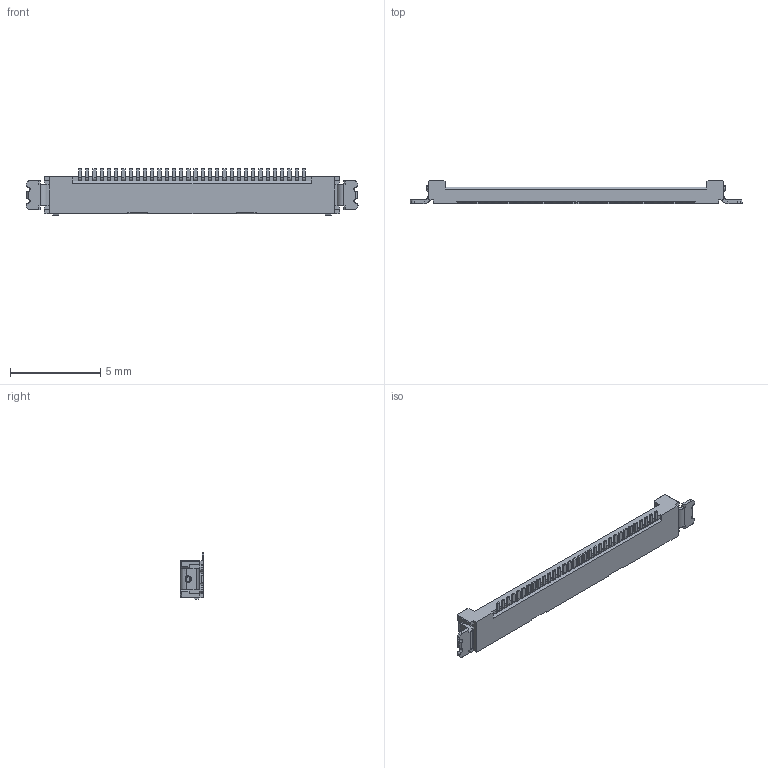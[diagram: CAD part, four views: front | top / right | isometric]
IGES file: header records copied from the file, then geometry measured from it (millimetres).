
Start section: SolidWorks IGES file using analytic representation for surfaces
Global section: file name: C:\3d-work\吉村\CAB-SS 3Dデータ 120316\3Dデータ\20374-032E-xxC RECE ASSY IGES R1 ALL.IGS; native system: SolidWorks 2011; preprocessor: SolidWorks 2011; author: 3DCAD; date: 120316.235729; units: millimetre
Bounding box: 18.4 x 1.33 x 2.6 mm (x, y, z)
Surface area: 148.9 mm2 (no closed solid volume)
Topology: 0 solids, 0 shells, 1283 faces, 7672 edges, 7668 vertices
Faces by surface type: bspline 835, revolution 448
